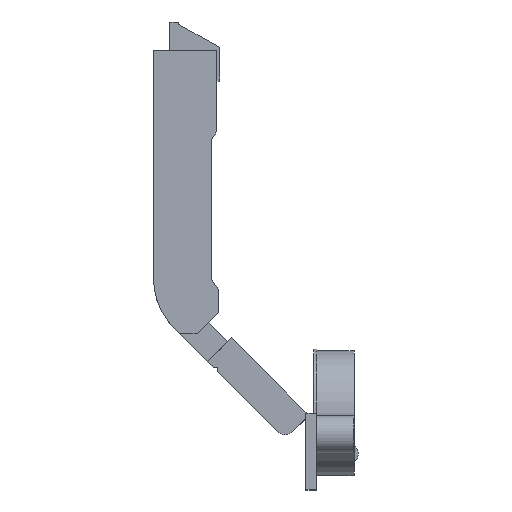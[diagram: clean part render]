
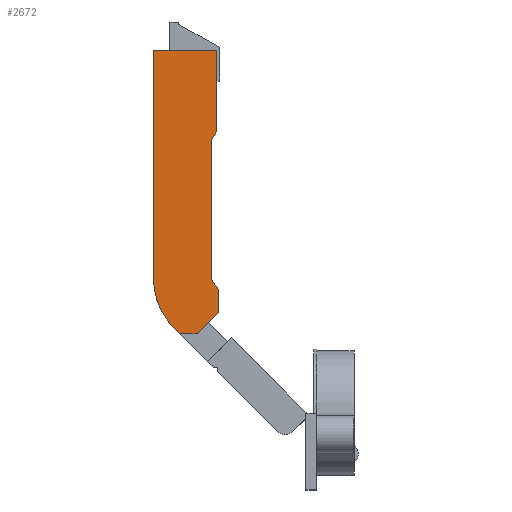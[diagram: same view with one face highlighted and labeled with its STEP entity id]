
A CAD part, top view. The second image highlights one B-rep face of the part: STEP entity #2672.
In plain terms, the highlighted planar face has unit normal (0, 0, 1).
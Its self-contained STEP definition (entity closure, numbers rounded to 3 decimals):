
#50 = ORIENTED_EDGE ( 'NONE', *, *, #1909, .F. ) ;
#133 = VECTOR ( 'NONE', #794, 1000. ) ;
#165 = AXIS2_PLACEMENT_3D ( 'NONE', #2591, #1370, #2800 ) ;
#367 = CARTESIAN_POINT ( 'NONE',  ( -9.992, 22.402, 9.15 ) ) ;
#373 = CARTESIAN_POINT ( 'NONE',  ( -22.25, 101.894, 9.15 ) ) ;
#412 = VERTEX_POINT ( 'NONE', #418 ) ;
#418 = CARTESIAN_POINT ( 'NONE',  ( -4.01, 34.75, 9.15 ) ) ;
#426 = ORIENTED_EDGE ( 'NONE', *, *, #1917, .F. ) ;
#446 = VERTEX_POINT ( 'NONE', #373 ) ;
#510 = CARTESIAN_POINT ( 'NONE',  ( -9.992, 22.402, 9.15 ) ) ;
#536 = DIRECTION ( 'NONE',  ( 0., -1., 0. ) ) ;
#566 = DIRECTION ( 'NONE',  ( -0.574, -0.819, 0. ) ) ;
#579 = DIRECTION ( 'NONE',  ( -0.707, 0.707, 0. ) ) ;
#659 = CARTESIAN_POINT ( 'NONE',  ( -4.5, 101.894, 9.15 ) ) ;
#722 = ORIENTED_EDGE ( 'NONE', *, *, #1915, .F. ) ;
#794 = DIRECTION ( 'NONE',  ( -1., 0., 0. ) ) ;
#824 = CARTESIAN_POINT ( 'NONE',  ( -6., 37.592, 9.15 ) ) ;
#849 = VERTEX_POINT ( 'NONE', #1679 ) ;
#943 = ORIENTED_EDGE ( 'NONE', *, *, #1782, .F. ) ;
#1021 = ORIENTED_EDGE ( 'NONE', *, *, #1871, .F. ) ;
#1071 = LINE ( 'NONE', #2558, #1932 ) ;
#1076 = ORIENTED_EDGE ( 'NONE', *, *, #1853, .F. ) ;
#1105 = CARTESIAN_POINT ( 'NONE',  ( -22.25, 101.894, 9.15 ) ) ;
#1151 = CARTESIAN_POINT ( 'NONE',  ( -2.25, 37.994, 9.15 ) ) ;
#1192 = ORIENTED_EDGE ( 'NONE', *, *, #1824, .F. ) ;
#1256 = CARTESIAN_POINT ( 'NONE',  ( -6., 37.592, 9.15 ) ) ;
#1322 = LINE ( 'NONE', #2570, #3037 ) ;
#1328 = LINE ( 'NONE', #1785, #3031 ) ;
#1339 = EDGE_CURVE ( 'NONE', #849, #1634, #2977, .T. ) ;
#1348 = CARTESIAN_POINT ( 'NONE',  ( -4.01, 34.75, 9.15 ) ) ;
#1358 = LINE ( 'NONE', #3002, #2241 ) ;
#1370 = DIRECTION ( 'NONE',  ( 0., 0., -1. ) ) ;
#1383 = VECTOR ( 'NONE', #2781, 1000. ) ;
#1391 = DIRECTION ( 'NONE',  ( 0., 0., -1. ) ) ;
#1430 = VECTOR ( 'NONE', #1993, 1000. ) ;
#1466 = VERTEX_POINT ( 'NONE', #367 ) ;
#1577 = DIRECTION ( 'NONE',  ( 1., 0., 0. ) ) ;
#1610 = CARTESIAN_POINT ( 'NONE',  ( -22.25, 37.994, 9.15 ) ) ;
#1619 = LINE ( 'NONE', #824, #3021 ) ;
#1621 = VERTEX_POINT ( 'NONE', #1256 ) ;
#1634 = VERTEX_POINT ( 'NONE', #2114 ) ;
#1651 = AXIS2_PLACEMENT_3D ( 'NONE', #1151, #1391, #2824 ) ;
#1666 = LINE ( 'NONE', #1105, #2980 ) ;
#1679 = CARTESIAN_POINT ( 'NONE',  ( -14.942, 22.402, 9.15 ) ) ;
#1719 = LINE ( 'NONE', #1348, #1383 ) ;
#1774 = CARTESIAN_POINT ( 'NONE',  ( -4.5, 79.036, 9.15 ) ) ;
#1782 = EDGE_CURVE ( 'NONE', #1466, #849, #2967, .T. ) ;
#1785 = CARTESIAN_POINT ( 'NONE',  ( -22.25, 37.994, 9.15 ) ) ;
#1824 = EDGE_CURVE ( 'NONE', #2960, #1466, #1358, .T. ) ;
#1852 = CARTESIAN_POINT ( 'NONE',  ( -4.01, 28.384, 9.15 ) ) ;
#1853 = EDGE_CURVE ( 'NONE', #412, #2960, #1071, .T. ) ;
#1866 = EDGE_CURVE ( 'NONE', #1621, #412, #1719, .T. ) ;
#1871 = EDGE_CURVE ( 'NONE', #1914, #1621, #1619, .T. ) ;
#1882 = EDGE_CURVE ( 'NONE', #2259, #1914, #1322, .T. ) ;
#1893 = EDGE_CURVE ( 'NONE', #2875, #2259, #3025, .T. ) ;
#1909 = EDGE_CURVE ( 'NONE', #446, #2875, #1666, .T. ) ;
#1914 = VERTEX_POINT ( 'NONE', #3027 ) ;
#1915 = EDGE_CURVE ( 'NONE', #2727, #446, #1328, .T. ) ;
#1917 = EDGE_CURVE ( 'NONE', #1634, #2727, #3008, .T. ) ;
#1932 = VECTOR ( 'NONE', #536, 1000. ) ;
#1993 = DIRECTION ( 'NONE',  ( 0., -1., 0. ) ) ;
#2005 = DIRECTION ( 'NONE',  ( 0., 1., 0. ) ) ;
#2113 = ORIENTED_EDGE ( 'NONE', *, *, #1866, .F. ) ;
#2114 = CARTESIAN_POINT ( 'NONE',  ( -16.392, 23.852, 9.15 ) ) ;
#2123 = ORIENTED_EDGE ( 'NONE', *, *, #1339, .F. ) ;
#2171 = ORIENTED_EDGE ( 'NONE', *, *, #1893, .F. ) ;
#2207 = CARTESIAN_POINT ( 'NONE',  ( -5.502, 12.962, 9.15 ) ) ;
#2241 = VECTOR ( 'NONE', #2546, 1000. ) ;
#2259 = VERTEX_POINT ( 'NONE', #2719 ) ;
#2505 = VECTOR ( 'NONE', #579, 1000. ) ;
#2546 = DIRECTION ( 'NONE',  ( -0.707, -0.707, 0. ) ) ;
#2558 = CARTESIAN_POINT ( 'NONE',  ( -4.01, 28.384, 9.15 ) ) ;
#2570 = CARTESIAN_POINT ( 'NONE',  ( -6., 76.894, 9.15 ) ) ;
#2586 = FACE_OUTER_BOUND ( 'NONE', #2673, .T. ) ;
#2591 = CARTESIAN_POINT ( 'NONE',  ( -2.25, 37.994, 9.15 ) ) ;
#2616 = PLANE ( 'NONE',  #1651 ) ;
#2669 = ORIENTED_EDGE ( 'NONE', *, *, #1882, .F. ) ;
#2672 = ADVANCED_FACE ( 'NONE', ( #2586 ), #2616, .F. ) ;
#2673 = EDGE_LOOP ( 'NONE', ( #2123, #943, #1192, #1076, #2113, #1021, #2669, #2171, #50, #722, #426 ) ) ;
#2719 = CARTESIAN_POINT ( 'NONE',  ( -4.5, 79.036, 9.15 ) ) ;
#2727 = VERTEX_POINT ( 'NONE', #1610 ) ;
#2772 = DIRECTION ( 'NONE',  ( 0., -1., 0. ) ) ;
#2781 = DIRECTION ( 'NONE',  ( 0.574, -0.819, 0. ) ) ;
#2800 = DIRECTION ( 'NONE',  ( 0., -1., 0. ) ) ;
#2824 = DIRECTION ( 'NONE',  ( 0., -1., 0. ) ) ;
#2875 = VERTEX_POINT ( 'NONE', #659 ) ;
#2960 = VERTEX_POINT ( 'NONE', #1852 ) ;
#2967 = LINE ( 'NONE', #510, #133 ) ;
#2977 = LINE ( 'NONE', #2207, #2505 ) ;
#2980 = VECTOR ( 'NONE', #1577, 1000. ) ;
#3002 = CARTESIAN_POINT ( 'NONE',  ( -4.01, 28.384, 9.15 ) ) ;
#3008 = CIRCLE ( 'NONE', #165, 20. ) ;
#3021 = VECTOR ( 'NONE', #2772, 1000. ) ;
#3025 = LINE ( 'NONE', #1774, #1430 ) ;
#3027 = CARTESIAN_POINT ( 'NONE',  ( -6., 76.894, 9.15 ) ) ;
#3031 = VECTOR ( 'NONE', #2005, 1000. ) ;
#3037 = VECTOR ( 'NONE', #566, 1000. ) ;
